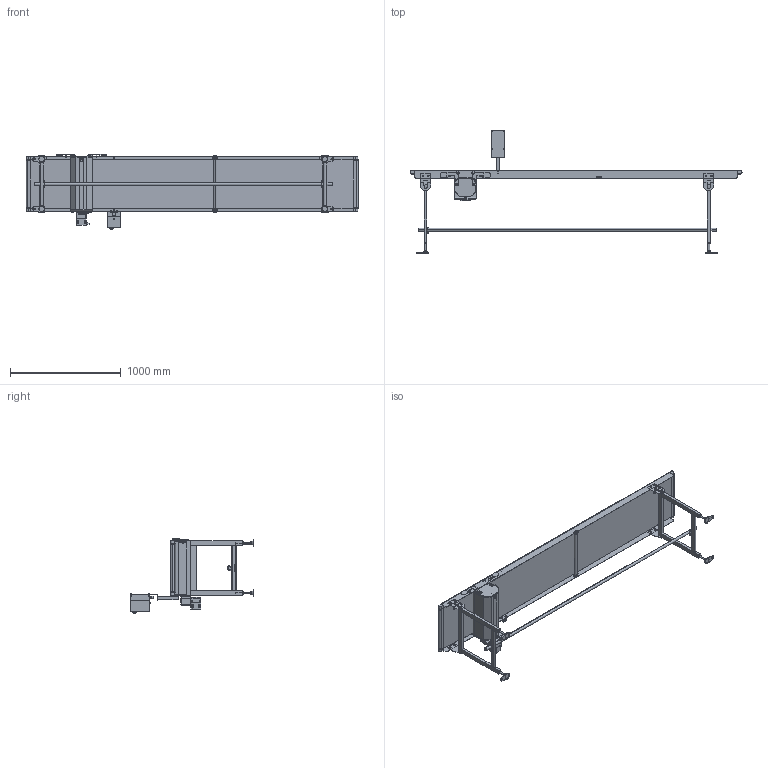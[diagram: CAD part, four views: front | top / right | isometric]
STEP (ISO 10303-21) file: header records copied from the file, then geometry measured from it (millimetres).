
FILE_DESCRIPTION (( 'STEP AP214' ), '1' );
FILE_NAME ('TBC200HH450300R.STEP', '2023-04-21T00:50:39', ( '' ), ( '' ), 'SwSTEP 2.0', 'SolidWorks 2017', '' );
FILE_SCHEMA (( 'AUTOMOTIVE_DESIGN' ));
Length unit declared in the file: millimetre
Products named in the file (1): TBC200HH450300R
Bounding box: 3002 x 1111 x 684.58 mm (x, y, z)
Volume: 38604354.4 mm3; surface area: 12377634.9 mm2
Topology: 118 solids, 118 shells, 2757 faces, 6434 edges, 4014 vertices
Faces by surface type: plane 1468, cylinder 771, cone 370, torus 126, sphere 12, bspline 10
Entity records: 111892 total; most frequent: CARTESIAN_POINT 16124, DIRECTION 13912, ORIENTED_EDGE 12820, EDGE_CURVE 6410, AXIS2_PLACEMENT_3D 5258, VERTEX_POINT 4014, LINE 3396, VECTOR 3396
